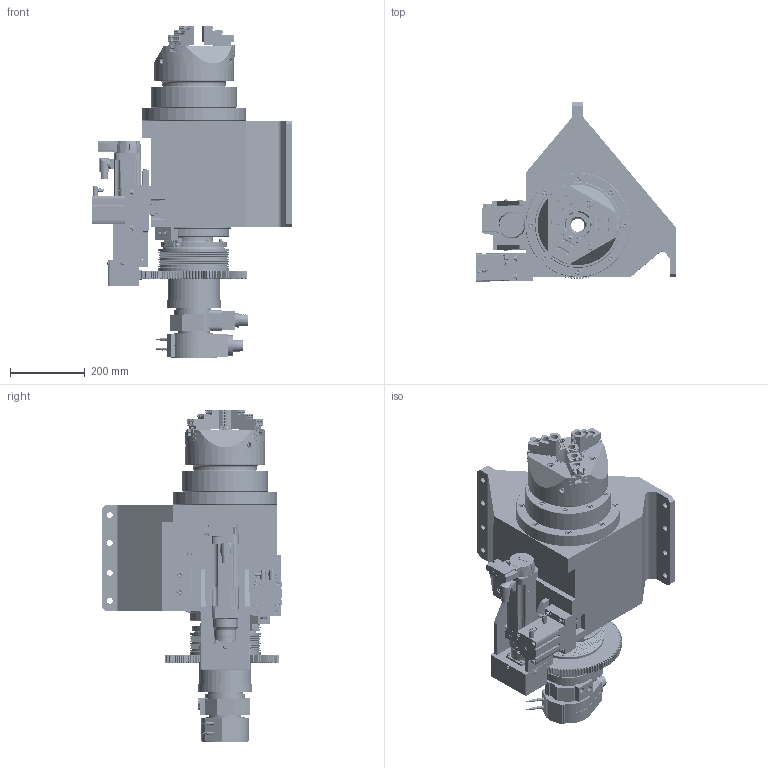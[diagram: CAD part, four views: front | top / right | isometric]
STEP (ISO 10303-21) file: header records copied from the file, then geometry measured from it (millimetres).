
FILE_DESCRIPTION(/* description */ (''),/* implementation_level */ '2;1');
FILE_NAME(/* name */ 'D:\Luboš_škola\Diplomka\FINAL\2020-01-S000.stp',/* time_stamp */ '2020-06-25T21:47:30+02:00',/* author */ ('Lubos'),/* organization */ ('VUT FSI BRNO'),/* preprocessor_version */ 'ST-DEVELOPER v16.13',/* originating_system */ 'Autodesk Inventor 2018',/* authorisation */ '');
FILE_SCHEMA (('AUTOMOTIVE_DESIGN { 1 0 10303 214 3 1 1 }'));
Products named in the file (87): 2020-01-S000; 2020-01-S001; 2020-01-S010; DP-2020-01-0001; 2020-01-0002; 7020 ACD; NN 3018 KTN9_SP; 2020-01-0003; 2020-01-0004; 2020-01-0005; 2020-01-0006; 2020-01-0007; 2020-01-0008; 2020-01-0009; 2020-01-0010; CSN 02 2562 - 22x14x70; 2020-01-S002; 2020-01-0011; KMD 14; TTR ERM 2200_733349-16; DIN 912 - M10 x 35; DIN 912 - M10 x 60; 2020-01-0016; DIN 912 - M5 x 25; ISO 7092 - ST 5 - 140 HV; DIN 912 - M10 x 45; 2020-01-S011; DIN 912 - M10 x 25; 2020-01-S002_1; ISO 4762 - M8 x 80; 2020-01-0014; 2020-01-0015; OPUS-H3 70-37_S001.ipt; OPUS-H3 70-37_0001; OPUS-H3 70-37_0002; OPUS-H3 70-37_0003; SCHUNK-1359604 OPUS-H3 70-37; OPUS-H3 70-37_0005; OPUS-H3 70-37_0006; OPUS-H3 70-37_0007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
Assembly tree (175 placements, depth 5):
  2020-01-S000
    2020-01-S001
      2020-01-S010
        DP-2020-01-0001
        2020-01-0002
        7020 ACD  x3
        NN 3018 KTN9_SP
        2020-01-0003
        2020-01-0004
        2020-01-0005
        2020-01-0006
        2020-01-0007
        2020-01-0008
        2020-01-0009
        2020-01-0010
        CSN 02 2562 - 22x14x70  x2
        2020-01-S002
          2020-01-0011
          KMD 14
          TTR ERM 2200_733349-16
        DIN 912 - M10 x 35  x8
        DIN 912 - M10 x 60  x9
        2020-01-0016
        DIN 912 - M5 x 25  x6
        ISO 7092 - ST 5 - 140 HV  x6
        DIN 912 - M10 x 45  x8
      2020-01-S011
        Čelní ozubená kola
          Čelní ozubené kolo1
          Čelní ozubené kolo2
        DIN 912 - M10 x 25  x8
      2020-01-S002_1
        ISO 4762 - M8 x 80  x6
        2020-01-0014
        2020-01-0015
        OPUS-H3 70-37_S001.ipt
          OPUS-H3 70-37_0001
          OPUS-H3 70-37_0002
          OPUS-H3 70-37_0003
          SCHUNK-1359604 OPUS-H3 70-37
          OPUS-H3 70-37_0005
          OPUS-H3 70-37_0006
          OPUS-H3 70-37_0007
          OPUS-H3 70-37_0008
          OPUS-H3 70-37_0009
          IME08-06  x2
          OPUS-H3 70-37_0010
      2020-01-S003
        SCHUNK-0854117 ROTA NCF plus 2 215-66 A6
        SCHUNK-0133109 SHB-J 80  x3
    2020-01-0013
    2020-01-S003_1
      Čelní ozubená kola
        Čelní ozubené kolo1
        Čelní ozubené kolo2
      2020-01-0020
      2020-01-0021  x2
      2020-01-0022
      2020-01-0023
      2020-01-0024
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Bounding box: 535.85 x 480.22 x 889.7 mm (x, y, z)
Volume: 49752118 mm3; surface area: 4679230.4 mm2
Topology: 308 solids, 311 shells, 11040 faces, 27658 edges, 17619 vertices
Faces by surface type: plane 4730, cylinder 3580, cone 1981, torus 494, bspline 181, sphere 74
Full cylindrical faces by diameter (mm): 1.5 x3, 2 x3, 2.5 x8, 3 x3, 3.1 x4, 3.242 x8, 3.459 x1, 3.64 x2, 3.7 x2, 4 x8, 4.134 x16, 4.2 x4, 4.35 x4, 4.5 x3, 4.917 x29, 5 x16, 5.2 x6, 5.3 x9, 5.4 x2, 5.5 x8, 6 x27, 6.3 x2, 6.4 x6, 6.5 x8, 6.6 x20, 6.647 x18, 6.9 x2, 7 x13, 7.5 x4, 8 x27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
Entity records: 217220 total; most frequent: CARTESIAN_POINT 55478, DIRECTION 34148, ORIENTED_EDGE 29832, EDGE_CURVE 14916, AXIS2_PLACEMENT_3D 13541, VERTEX_POINT 10419, EDGE_LOOP 8871, LINE 7066
